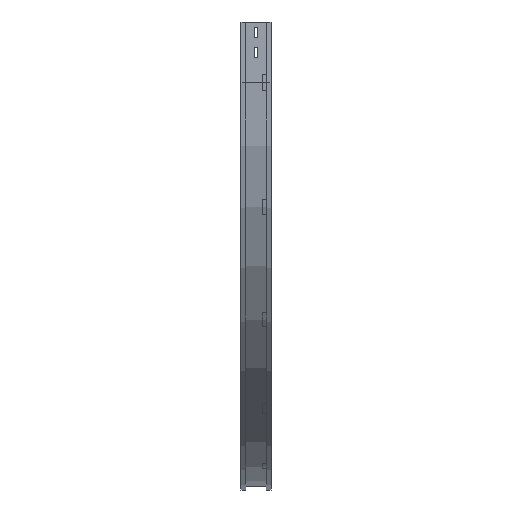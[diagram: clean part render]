
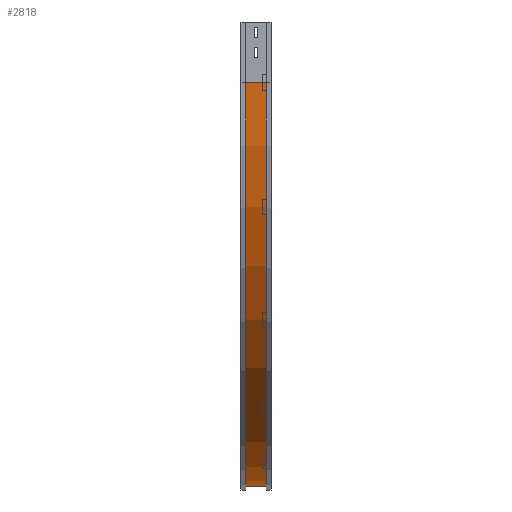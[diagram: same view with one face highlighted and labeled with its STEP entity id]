
A CAD part, left-side view. The second image highlights one B-rep face of the part: STEP entity #2818.
In plain terms, the highlighted cylindrical face has radius 1000 mm (diameter 2000 mm), a partial arc.
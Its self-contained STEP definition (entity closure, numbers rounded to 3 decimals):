
#41 = AXIS2_PLACEMENT_3D ( 'NONE', #926, #1476, #653 ) ;
#190 = CARTESIAN_POINT ( 'NONE',  ( 1009., 0., -150. ) ) ;
#228 = EDGE_CURVE ( 'NONE', #3373, #3034, #1485, .T. ) ;
#313 = ORIENTED_EDGE ( 'NONE', *, *, #3056, .T. ) ;
#371 = ORIENTED_EDGE ( 'NONE', *, *, #228, .F. ) ;
#390 = ORIENTED_EDGE ( 'NONE', *, *, #1050, .F. ) ;
#653 = DIRECTION ( 'NONE',  ( -1., 0., 0. ) ) ;
#855 = VERTEX_POINT ( 'NONE', #1798 ) ;
#926 = CARTESIAN_POINT ( 'NONE',  ( 1009., 12., -150. ) ) ;
#964 = FACE_OUTER_BOUND ( 'NONE', #1650, .T. ) ;
#1050 = EDGE_CURVE ( 'NONE', #3197, #3373, #1946, .T. ) ;
#1103 = DIRECTION ( 'NONE',  ( 0., -1., 0. ) ) ;
#1142 = DIRECTION ( 'NONE',  ( 0., -1., 0. ) ) ;
#1227 = ORIENTED_EDGE ( 'NONE', *, *, #3224, .T. ) ;
#1304 = CARTESIAN_POINT ( 'NONE',  ( 1009., 12., -1150. ) ) ;
#1314 = VECTOR ( 'NONE', #3389, 1000. ) ;
#1449 = CARTESIAN_POINT ( 'NONE',  ( 9., 63., -150. ) ) ;
#1476 = DIRECTION ( 'NONE',  ( 0., -1., 0. ) ) ;
#1485 = CIRCLE ( 'NONE', #41, 1000. ) ;
#1499 = CARTESIAN_POINT ( 'NONE',  ( 9., 12., -150. ) ) ;
#1584 = AXIS2_PLACEMENT_3D ( 'NONE', #190, #2598, #3079 ) ;
#1650 = EDGE_LOOP ( 'NONE', ( #371, #390, #1227, #313 ) ) ;
#1709 = CARTESIAN_POINT ( 'NONE',  ( 9., 12., -150. ) ) ;
#1798 = CARTESIAN_POINT ( 'NONE',  ( 1009., 63., -1150. ) ) ;
#1871 = DIRECTION ( 'NONE',  ( -1., 0., 0. ) ) ;
#1946 = LINE ( 'NONE', #1709, #2409 ) ;
#1963 = CARTESIAN_POINT ( 'NONE',  ( 1009., 63., -150. ) ) ;
#2095 = CARTESIAN_POINT ( 'NONE',  ( 1009., 12., -1150. ) ) ;
#2251 = CIRCLE ( 'NONE', #2594, 1000. ) ;
#2290 = CYLINDRICAL_SURFACE ( 'NONE', #1584, 1000. ) ;
#2409 = VECTOR ( 'NONE', #1142, 1000. ) ;
#2594 = AXIS2_PLACEMENT_3D ( 'NONE', #1963, #1103, #1871 ) ;
#2598 = DIRECTION ( 'NONE',  ( 0., -1., 0. ) ) ;
#2646 = LINE ( 'NONE', #2095, #1314 ) ;
#2818 = ADVANCED_FACE ( 'NONE', ( #964 ), #2290, .T. ) ;
#3034 = VERTEX_POINT ( 'NONE', #1304 ) ;
#3056 = EDGE_CURVE ( 'NONE', #855, #3034, #2646, .T. ) ;
#3079 = DIRECTION ( 'NONE',  ( 0., 0., -1. ) ) ;
#3197 = VERTEX_POINT ( 'NONE', #1449 ) ;
#3224 = EDGE_CURVE ( 'NONE', #3197, #855, #2251, .T. ) ;
#3373 = VERTEX_POINT ( 'NONE', #1499 ) ;
#3389 = DIRECTION ( 'NONE',  ( 0., -1., 0. ) ) ;
